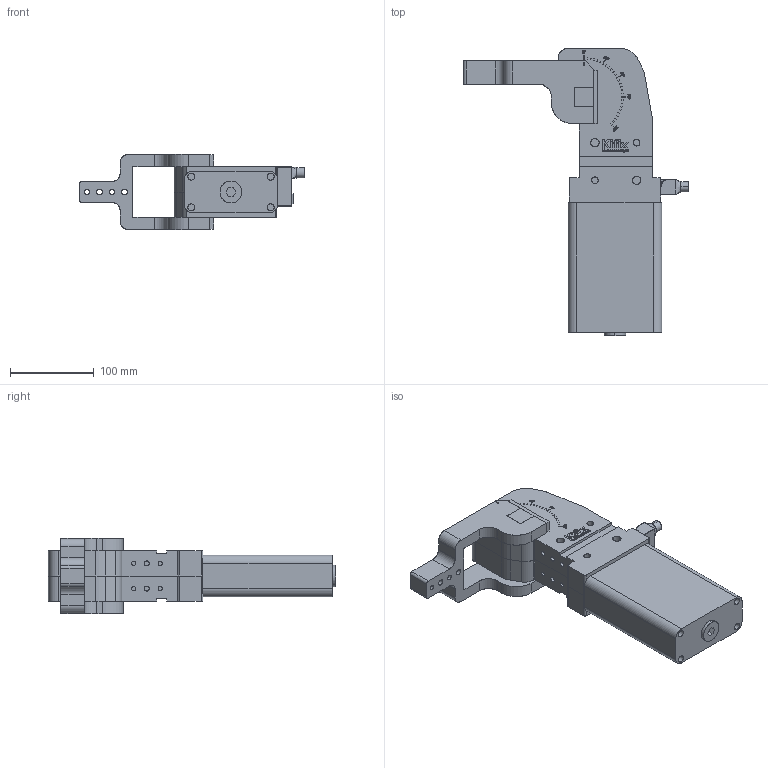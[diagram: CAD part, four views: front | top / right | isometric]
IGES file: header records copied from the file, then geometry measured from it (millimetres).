
Start section: SolidWorks IGES file using analytic representation for surfaces
Global section: file name: C:\Projetos\Grampos\KFP\KFP-L63\KFP-L63 SITE\KFPW-L63 - SITE.IGS; native system: SolidWorks 2012; preprocessor: SolidWorks 2012; author: Ricardo; date: 130905.102801; units: millimetre
Bounding box: 269.29 x 344 x 90 mm (x, y, z)
Surface area: 245257.1 mm2 (no closed solid volume)
Topology: 0 solids, 0 shells, 2326 faces, 21552 edges, 21531 vertices
Faces by surface type: bspline 2176, revolution 150
